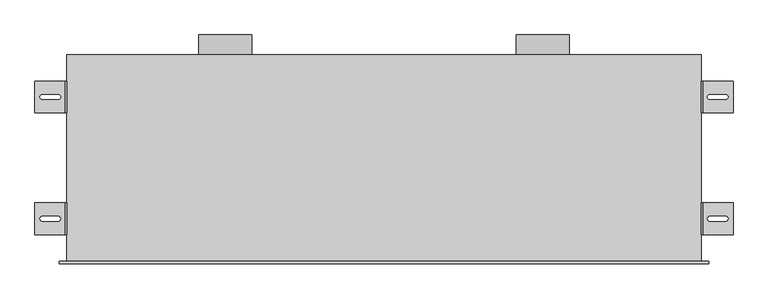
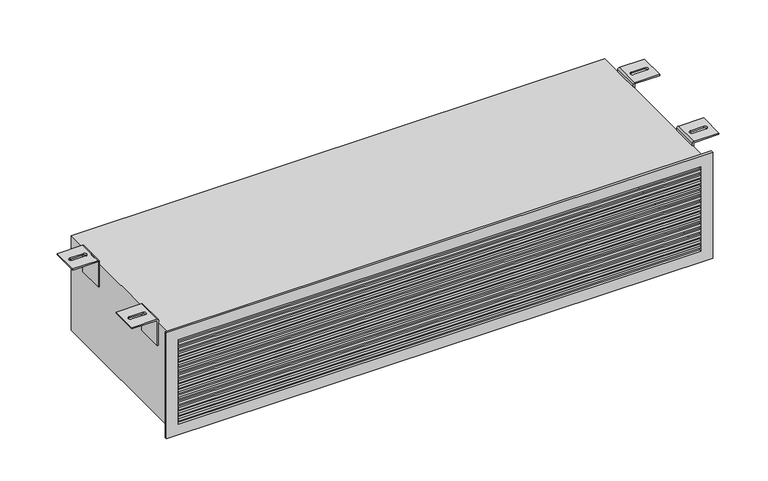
"""IFC4 building model written with IfcOpenShell, lengths in millimetres: air terminal geometry, EOL - Mural - 2 piquages : EOL-M2x100-1200x225-2."""

from ifc_helpers import new_model, si_unit, point, frame, frame_2d, origin, place, context, project, spatial, polyline, circle_curve, ellipse_curve, trimmed, segment, composite_curve, outline, extrude, source, transform, mapped, element, save
from ifc_brep_helpers import plane_surface, cylinder_surface, revolved_surface, extruded_surface, advanced_brep


def air_terminal_93b68f62(model_context):
    return source(origin(), model_context, "Body", "SolidModel", [
        advanced_brep(
        [(604.0013366, 110.0, 121.5), (660.0, 110.0, 121.5), (660.0, 110.0, 118.5), (604.0, 110.0, 118.5), (603.0, 110.0, 117.5), (603.0, 110.0, 58.5), (600.0, 110.0, 58.5), (600.0, 110.0, 117.4986634), (604.0013366, 50.0, 121.5), (600.0, 50.0, 117.4986634), (600.0, 50.0, 58.5), (603.0, 50.0, 58.5), (603.0, 50.0, 117.5), (604.0, 50.0, 118.5), (660.0, 50.0, 118.5), (660.0, 50.0, 121.5), (646.0287952, 75.4804328, 121.5), (616.0287952, 75.4804328, 121.5), (616.0287952, 84.4804328, 121.5), (646.0287952, 84.4804328, 121.5), (616.0287952, 75.4804328, 118.5), (646.0287952, 75.4804328, 118.5), (646.0287952, 84.4804328, 118.5), (616.0287952, 84.4804328, 118.5)],
        [
            (0, 1),
            (1, 2),
            (2, 3),
            (3, 4, circle_curve(frame((604.0, 110.0, 117.5), z_axis=(0.0, -1.0, 0.0), x_axis=(-1.0000000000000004, 0.0, 0.0)), 1.0)),
            (4, 5),
            (5, 6),
            (6, 7),
            (7, 0, circle_curve(frame((604.0013366, 110.0, 117.4986634), z_axis=(0.0, 1.0, 0.0), x_axis=(-1.0000000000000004, 0.0, 0.0)), 4.0013366)),
            (8, 9, circle_curve(frame((604.0013366, 50.0, 117.4986634), z_axis=(0.0, -1.0, 0.0), x_axis=(-1.0000000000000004, 0.0, 0.0)), 4.0013366)),
            (9, 10),
            (10, 11),
            (11, 12),
            (12, 13, circle_curve(frame((604.0, 50.0, 117.5), z_axis=(0.0, 1.0, 0.0), x_axis=(-1.0000000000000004, 0.0, 0.0)), 1.0)),
            (13, 14),
            (14, 15),
            (15, 8),
            (0, 8),
            (15, 1),
            (16, 17),
            (17, 18, circle_curve(frame((616.0287952, 79.9804328, 121.5), z_axis=(0.0, 0.0, -1.0), x_axis=(0.0, -1.0, 0.0)), 4.5)),
            (18, 19),
            (19, 16, circle_curve(frame((646.0287952, 79.9804328, 121.5), z_axis=(0.0, 0.0, -1.0), x_axis=(0.0, -1.0, 0.0)), 4.5)),
            (14, 2),
            (13, 3),
            (20, 21),
            (21, 22, ellipse_curve(frame((646.0287952, 79.9804328, 118.5), z_axis=(0.0, 0.0, 1.0), x_axis=(0.0, -1.0, 0.0)), 4.5, 4.5)),
            (22, 23),
            (23, 20, ellipse_curve(frame((616.0287952, 79.9804328, 118.5), z_axis=(0.0, 0.0, 1.0), x_axis=(0.0, -1.0, 0.0)), 4.5, 4.5)),
            (12, 4),
            (11, 5),
            (10, 6),
            (9, 7),
            (16, 21),
            (20, 17),
            (19, 22),
            (18, 23),
        ],
        [
            plane_surface(frame((660.0, 110.0, 121.5), z_axis=(0.0, 1.0, 0.0), x_axis=(1.0, 0.0, 0.0))),
            plane_surface(frame((660.0, 50.0, 121.5), z_axis=(0.0, -1.0, 0.0), x_axis=(-1.0, 0.0, 0.0))),
            plane_surface(frame((604.0013366, 110.0, 121.5), z_axis=(0.0, 0.0, 1.0), x_axis=(0.0, -1.0, 0.0))),
            plane_surface(frame((660.0, 110.0, 121.5), z_axis=(1.0, 0.0, 0.0), x_axis=(0.0, -1.0, 0.0))),
            plane_surface(frame((660.0, 110.0, 118.5), z_axis=(0.0, 0.0, -1.0), x_axis=(0.0, -1.0, 0.0))),
            revolved_surface(polyline([(603.0, 50.0, 117.5), (603.0, 110.00000000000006, 117.5)]), (604.0, 50.0, 117.5), (0.0, -1.0000000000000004, 0.0)),
            plane_surface(frame((603.0, 110.0, 117.5), z_axis=(1.0, 0.0, 0.0), x_axis=(0.0, -1.0, 0.0))),
            plane_surface(frame((603.0, 110.0, 58.5), z_axis=(0.0, 0.0, -1.0), x_axis=(0.0, -1.0, 0.0))),
            plane_surface(frame((600.0, 110.0, 58.5), z_axis=(-1.0, 0.0, 0.0), x_axis=(0.0, -1.0, 0.0))),
            cylinder_surface(frame((604.0013366, 50.0, 117.4986634), z_axis=(0.0, 1.0000000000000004, 0.0), x_axis=(-1.0000000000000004, 0.0, 0.0)), 4.0013366),
            plane_surface(frame((616.0287952, 75.4804328, 121.5), z_axis=(0.0, 1.0, 0.0), x_axis=(0.0, 0.0, -1.0))),
            extruded_surface(trimmed(ellipse_curve(frame((646.0287952, 79.9804328, 118.5), z_axis=(0.0, 0.0, 1.0), x_axis=(0.0, -1.0, 0.0)), 4.5, 4.5), [point((646.0287952, 75.4804328, 118.5))], [point((646.0287952, 84.4804328, 118.5))], True, "CARTESIAN"), (0.0, 0.0, -3.0), 3.0),
            plane_surface(frame((646.0287952, 84.4804328, 121.5), z_axis=(0.0, -1.0, 0.0), x_axis=(0.0, 0.0, -1.0))),
            extruded_surface(trimmed(ellipse_curve(frame((616.0287952, 79.9804328, 118.5), z_axis=(0.0, 0.0, 1.0), x_axis=(0.0, -1.0, 0.0)), 4.5, 4.5), [point((616.0287952, 84.4804328, 118.5))], [point((616.0287952, 75.4804328, 118.5))], True, "CARTESIAN"), (0.0, 0.0, -3.0), 3.0),
        ],
        [
            (0, [[1, 2, 3, 4, 5, 6, 7, 8]]),
            (1, [[9, 10, 11, 12, 13, 14, 15, 16]]),
            (2, [[-1, 17, -16, 18], [19, 20, 21, 22]]),
            (3, [[-2, -18, -15, 23]]),
            (4, [[-3, -23, -14, 24], [25, 26, 27, 28]]),
            (5, [[-4, -24, -13, 29]]),
            (6, [[-5, -29, -12, 30]]),
            (7, [[-6, -30, -11, 31]]),
            (8, [[-7, -31, -10, 32]]),
            (9, [[-8, -32, -9, -17]]),
            (10, [[33, -25, 34, -19]]),
            (11, [[-33, -22, 35, -26]]),
            (12, [[-35, -21, 36, -27]]),
            (13, [[-34, -28, -36, -20]]),
        ],
    ),
        advanced_brep(
        [(604.0013366, 340.0, 121.5), (660.0, 340.0, 121.5), (660.0, 340.0, 118.5), (604.0, 340.0, 118.5), (603.0, 340.0, 117.5), (603.0, 340.0, 58.5), (600.0, 340.0, 58.5), (600.0, 340.0, 117.4986634), (604.0013366, 280.0, 121.5), (600.0, 280.0, 117.4986634), (600.0, 280.0, 58.5), (603.0, 280.0, 58.5), (603.0, 280.0, 117.5), (604.0, 280.0, 118.5), (660.0, 280.0, 118.5), (660.0, 280.0, 121.5), (646.0287952, 305.4804328, 121.5), (616.0287952, 305.4804328, 121.5), (616.0287952, 314.4804328, 121.5), (646.0287952, 314.4804328, 121.5), (616.0287952, 305.4804328, 118.5), (646.0287952, 305.4804328, 118.5), (646.0287952, 314.4804328, 118.5), (616.0287952, 314.4804328, 118.5)],
        [
            (0, 1),
            (1, 2),
            (2, 3),
            (3, 4, circle_curve(frame((604.0, 340.0, 117.5), z_axis=(0.0, -1.0, 0.0), x_axis=(-1.0, 0.0, 0.0)), 1.0)),
            (4, 5),
            (5, 6),
            (6, 7),
            (7, 0, circle_curve(frame((604.0013366, 340.0, 117.4986634), z_axis=(0.0, 1.0, 0.0), x_axis=(-1.0, 0.0, 0.0)), 4.0013366)),
            (8, 9, circle_curve(frame((604.0013366, 280.0, 117.4986634), z_axis=(0.0, -1.0, 0.0), x_axis=(-1.0, 0.0, 0.0)), 4.0013366)),
            (9, 10),
            (10, 11),
            (11, 12),
            (12, 13, circle_curve(frame((604.0, 280.0, 117.5), z_axis=(0.0, 1.0, 0.0), x_axis=(-1.0, 0.0, 0.0)), 1.0)),
            (13, 14),
            (14, 15),
            (15, 8),
            (0, 8),
            (15, 1),
            (16, 17),
            (17, 18, circle_curve(frame((616.0287952, 309.9804328, 121.5), z_axis=(0.0, 0.0, -1.0), x_axis=(0.0, -1.0, 0.0)), 4.5)),
            (18, 19),
            (19, 16, circle_curve(frame((646.0287952, 309.9804328, 121.5), z_axis=(0.0, 0.0, -1.0), x_axis=(0.0, -1.0, 0.0)), 4.5)),
            (14, 2),
            (13, 3),
            (20, 21),
            (21, 22, ellipse_curve(frame((646.0287952, 309.9804328, 118.5), z_axis=(0.0, 0.0, 1.0), x_axis=(0.0, -1.0, 0.0)), 4.5, 4.5)),
            (22, 23),
            (23, 20, ellipse_curve(frame((616.0287952, 309.9804328, 118.5), z_axis=(0.0, 0.0, 1.0), x_axis=(0.0, -1.0, 0.0)), 4.5, 4.5)),
            (12, 4),
            (11, 5),
            (10, 6),
            (9, 7),
            (16, 21),
            (20, 17),
            (19, 22),
            (18, 23),
        ],
        [
            plane_surface(frame((660.0, 340.0, 121.5), z_axis=(0.0, 1.0, 0.0), x_axis=(1.0, 0.0, 0.0))),
            plane_surface(frame((660.0, 280.0, 121.5), z_axis=(0.0, -1.0, 0.0), x_axis=(-1.0, 0.0, 0.0))),
            plane_surface(frame((604.0013366, 340.0, 121.5), z_axis=(0.0, 0.0, 1.0), x_axis=(0.0, -1.0, 0.0))),
            plane_surface(frame((660.0, 340.0, 121.5), z_axis=(1.0, 0.0, 0.0), x_axis=(0.0, -1.0, 0.0))),
            plane_surface(frame((660.0, 340.0, 118.5), z_axis=(0.0, 0.0, -1.0), x_axis=(0.0, -1.0, 0.0))),
            revolved_surface(polyline([(603.0, 280.0, 117.5), (603.0, 340.0, 117.5)]), (604.0, 280.0, 117.5), (0.0, -1.0, 0.0)),
            plane_surface(frame((603.0, 340.0, 117.5), z_axis=(1.0, 0.0, 0.0), x_axis=(0.0, -1.0, 0.0))),
            plane_surface(frame((603.0, 340.0, 58.5), z_axis=(0.0, 0.0, -1.0), x_axis=(0.0, -1.0, 0.0))),
            plane_surface(frame((600.0, 340.0, 58.5), z_axis=(-1.0, 0.0, 0.0), x_axis=(0.0, -1.0, 0.0))),
            cylinder_surface(frame((604.0013366, 280.0, 117.4986634), z_axis=(0.0, 1.0, 0.0), x_axis=(-1.0, 0.0, 0.0)), 4.0013366),
            plane_surface(frame((616.0287952, 305.4804328, 121.5), z_axis=(0.0, 1.0, 0.0), x_axis=(0.0, 0.0, -1.0))),
            extruded_surface(trimmed(ellipse_curve(frame((646.0287952, 309.9804328, 118.5), z_axis=(0.0, 0.0, 1.0), x_axis=(0.0, -1.0, 0.0)), 4.5, 4.5), [point((646.0287952, 305.4804328, 118.5))], [point((646.0287952, 314.4804328, 118.5))], True, "CARTESIAN"), (0.0, 0.0, -3.0), 3.0),
            plane_surface(frame((646.0287952, 314.4804328, 121.5), z_axis=(0.0, -1.0, 0.0), x_axis=(0.0, 0.0, -1.0))),
            extruded_surface(trimmed(ellipse_curve(frame((616.0287952, 309.9804328, 118.5), z_axis=(0.0, 0.0, 1.0), x_axis=(0.0, -1.0, 0.0)), 4.5, 4.5), [point((616.0287952, 314.4804328, 118.5))], [point((616.0287952, 305.4804328, 118.5))], True, "CARTESIAN"), (0.0, 0.0, -3.0), 3.0),
        ],
        [
            (0, [[1, 2, 3, 4, 5, 6, 7, 8]]),
            (1, [[9, 10, 11, 12, 13, 14, 15, 16]]),
            (2, [[-1, 17, -16, 18], [19, 20, 21, 22]]),
            (3, [[-2, -18, -15, 23]]),
            (4, [[-3, -23, -14, 24], [25, 26, 27, 28]]),
            (5, [[-4, -24, -13, 29]]),
            (6, [[-5, -29, -12, 30]]),
            (7, [[-6, -30, -11, 31]]),
            (8, [[-7, -31, -10, 32]]),
            (9, [[-8, -32, -9, -17]]),
            (10, [[33, -25, 34, -19]]),
            (11, [[-33, -22, 35, -26]]),
            (12, [[-35, -21, 36, -27]]),
            (13, [[-34, -28, -36, -20]]),
        ],
    ),
        advanced_brep(
        [(-604.0013366, 50.0, 121.5), (-660.0, 50.0, 121.5), (-660.0, 50.0, 118.5), (-604.0, 50.0, 118.5), (-603.0, 50.0, 117.5), (-603.0, 50.0, 58.5), (-600.0, 50.0, 58.5), (-600.0, 50.0, 117.4986634), (-604.0013366, 110.0, 121.5), (-600.0, 110.0, 117.4986634), (-600.0, 110.0, 58.5), (-603.0, 110.0, 58.5), (-603.0, 110.0, 117.5), (-604.0, 110.0, 118.5), (-660.0, 110.0, 118.5), (-660.0, 110.0, 121.5), (-646.0287952, 84.5195672, 121.5), (-616.0287952, 84.5195672, 121.5), (-616.0287952, 75.5195672, 121.5), (-646.0287952, 75.5195672, 121.5), (-616.0287952, 84.5195672, 118.5), (-646.0287952, 84.5195672, 118.5), (-646.0287952, 75.5195672, 118.5), (-616.0287952, 75.5195672, 118.5)],
        [
            (0, 1),
            (1, 2),
            (2, 3),
            (3, 4, circle_curve(frame((-604.0, 50.0, 117.5), z_axis=(0.0, 1.0, 0.0), x_axis=(1.0, 0.0, 0.0)), 1.0)),
            (4, 5),
            (5, 6),
            (6, 7),
            (7, 0, circle_curve(frame((-604.0013366, 50.0, 117.4986634), z_axis=(0.0, -1.0, 0.0), x_axis=(1.0, 0.0, 0.0)), 4.0013366)),
            (8, 9, circle_curve(frame((-604.0013366, 110.0, 117.4986634), z_axis=(0.0, 1.0, 0.0), x_axis=(1.0, 0.0, 0.0)), 4.0013366)),
            (9, 10),
            (10, 11),
            (11, 12),
            (12, 13, circle_curve(frame((-604.0, 110.0, 117.5), z_axis=(0.0, -1.0, 0.0), x_axis=(1.0, 0.0, 0.0)), 1.0)),
            (13, 14),
            (14, 15),
            (15, 8),
            (0, 8),
            (15, 1),
            (16, 17),
            (17, 18, circle_curve(frame((-616.0287952, 80.0195672, 121.5), z_axis=(0.0, 0.0, -1.0), x_axis=(0.0, 1.0, 0.0)), 4.5)),
            (18, 19),
            (19, 16, circle_curve(frame((-646.0287952, 80.0195672, 121.5), z_axis=(0.0, 0.0, -1.0), x_axis=(0.0, 1.0, 0.0)), 4.5)),
            (14, 2),
            (13, 3),
            (20, 21),
            (21, 22, ellipse_curve(frame((-646.0287952, 80.0195672, 118.5), z_axis=(0.0, 0.0, 1.0), x_axis=(0.0, 1.0, 0.0)), 4.5, 4.5)),
            (22, 23),
            (23, 20, ellipse_curve(frame((-616.0287952, 80.0195672, 118.5), z_axis=(0.0, 0.0, 1.0), x_axis=(0.0, 1.0, 0.0)), 4.5, 4.5)),
            (12, 4),
            (11, 5),
            (10, 6),
            (9, 7),
            (16, 21),
            (20, 17),
            (19, 22),
            (18, 23),
        ],
        [
            plane_surface(frame((-660.0, 50.0, 121.5), z_axis=(0.0, -1.0, 0.0), x_axis=(-1.0, 0.0, 0.0))),
            plane_surface(frame((-660.0, 110.0, 121.5), z_axis=(0.0, 1.0, 0.0), x_axis=(1.0, 0.0, 0.0))),
            plane_surface(frame((-604.0013366, 50.0, 121.5), z_axis=(0.0, 0.0, 1.0), x_axis=(0.0, 1.0, 0.0))),
            plane_surface(frame((-660.0, 50.0, 121.5), z_axis=(-1.0, 0.0, 0.0), x_axis=(0.0, 1.0, 0.0))),
            plane_surface(frame((-660.0, 50.0, 118.5), z_axis=(0.0, 0.0, -1.0), x_axis=(0.0, 1.0, 0.0))),
            revolved_surface(polyline([(-603.0, 110.0, 117.5), (-603.0, 50.0, 117.5)]), (-604.0, 110.0, 117.5), (0.0, 1.0, 0.0)),
            plane_surface(frame((-603.0, 50.0, 117.5), z_axis=(-1.0, 0.0, 0.0), x_axis=(0.0, 1.0, 0.0))),
            plane_surface(frame((-603.0, 50.0, 58.5), z_axis=(0.0, 0.0, -1.0), x_axis=(0.0, 1.0, 0.0))),
            plane_surface(frame((-600.0, 50.0, 58.5), z_axis=(1.0, 0.0, 0.0), x_axis=(0.0, 1.0, 0.0))),
            cylinder_surface(frame((-604.0013366, 110.0, 117.4986634), z_axis=(0.0, -1.0, 0.0), x_axis=(1.0, 0.0, 0.0)), 4.0013366),
            plane_surface(frame((-616.0287952, 84.5195672, 121.5), z_axis=(0.0, -1.0, 0.0), x_axis=(0.0, 0.0, -1.0))),
            extruded_surface(trimmed(ellipse_curve(frame((-646.0287952, 80.0195672, 118.5), z_axis=(0.0, 0.0, 1.0), x_axis=(0.0, 1.0, 0.0)), 4.5, 4.5), [point((-646.0287952, 84.5195672, 118.5))], [point((-646.0287952, 75.5195672, 118.5))], True, "CARTESIAN"), (0.0, 0.0, -3.0), 3.0),
            plane_surface(frame((-646.0287952, 75.5195672, 121.5), z_axis=(0.0, 1.0, 0.0), x_axis=(0.0, 0.0, -1.0))),
            extruded_surface(trimmed(ellipse_curve(frame((-616.0287952, 80.0195672, 118.5), z_axis=(0.0, 0.0, 1.0), x_axis=(0.0, 1.0, 0.0)), 4.5, 4.5), [point((-616.0287952, 75.5195672, 118.5))], [point((-616.0287952, 84.5195672, 118.5))], True, "CARTESIAN"), (0.0, 0.0, -3.0), 3.0),
        ],
        [
            (0, [[1, 2, 3, 4, 5, 6, 7, 8]]),
            (1, [[9, 10, 11, 12, 13, 14, 15, 16]]),
            (2, [[-1, 17, -16, 18], [19, 20, 21, 22]]),
            (3, [[-2, -18, -15, 23]]),
            (4, [[-3, -23, -14, 24], [25, 26, 27, 28]]),
            (5, [[-4, -24, -13, 29]]),
            (6, [[-5, -29, -12, 30]]),
            (7, [[-6, -30, -11, 31]]),
            (8, [[-7, -31, -10, 32]]),
            (9, [[-8, -32, -9, -17]]),
            (10, [[33, -25, 34, -19]]),
            (11, [[-33, -22, 35, -26]]),
            (12, [[-35, -21, 36, -27]]),
            (13, [[-34, -28, -36, -20]]),
        ],
    ),
        advanced_brep(
        [(-604.0013366, 280.0, 121.5), (-660.0, 280.0, 121.5), (-660.0, 280.0, 118.5), (-604.0, 280.0, 118.5), (-603.0, 280.0, 117.5), (-603.0, 280.0, 58.5), (-600.0, 280.0, 58.5), (-600.0, 280.0, 117.4986634), (-604.0013366, 340.0, 121.5), (-600.0, 340.0, 117.4986634), (-600.0, 340.0, 58.5), (-603.0, 340.0, 58.5), (-603.0, 340.0, 117.5), (-604.0, 340.0, 118.5), (-660.0, 340.0, 118.5), (-660.0, 340.0, 121.5), (-646.0287952, 314.5195672, 121.5), (-616.0287952, 314.5195672, 121.5), (-616.0287952, 305.5195672, 121.5), (-646.0287952, 305.5195672, 121.5), (-616.0287952, 314.5195672, 118.5), (-646.0287952, 314.5195672, 118.5), (-646.0287952, 305.5195672, 118.5), (-616.0287952, 305.5195672, 118.5)],
        [
            (0, 1),
            (1, 2),
            (2, 3),
            (3, 4, circle_curve(frame((-604.0, 280.0, 117.5), z_axis=(0.0, 1.0, 0.0), x_axis=(1.0, 0.0, 0.0)), 1.0)),
            (4, 5),
            (5, 6),
            (6, 7),
            (7, 0, circle_curve(frame((-604.0013366, 280.0, 117.4986634), z_axis=(0.0, -1.0, 0.0), x_axis=(1.0, 0.0, 0.0)), 4.0013366)),
            (8, 9, circle_curve(frame((-604.0013366, 340.0, 117.4986634), z_axis=(0.0, 1.0, 0.0), x_axis=(1.0, 0.0, 0.0)), 4.0013366)),
            (9, 10),
            (10, 11),
            (11, 12),
            (12, 13, circle_curve(frame((-604.0, 340.0, 117.5), z_axis=(0.0, -1.0, 0.0), x_axis=(1.0, 0.0, 0.0)), 1.0)),
            (13, 14),
            (14, 15),
            (15, 8),
            (0, 8),
            (15, 1),
            (16, 17),
            (17, 18, circle_curve(frame((-616.0287952, 310.0195672, 121.5), z_axis=(0.0, 0.0, -1.0), x_axis=(0.0, 1.0, 0.0)), 4.5)),
            (18, 19),
            (19, 16, circle_curve(frame((-646.0287952, 310.0195672, 121.5), z_axis=(0.0, 0.0, -1.0), x_axis=(0.0, 1.0, 0.0)), 4.5)),
            (14, 2),
            (13, 3),
            (20, 21),
            (21, 22, ellipse_curve(frame((-646.0287952, 310.0195672, 118.5), z_axis=(0.0, 0.0, 1.0), x_axis=(0.0, 1.0, 0.0)), 4.5, 4.5)),
            (22, 23),
            (23, 20, ellipse_curve(frame((-616.0287952, 310.0195672, 118.5), z_axis=(0.0, 0.0, 1.0), x_axis=(0.0, 1.0, 0.0)), 4.5, 4.5)),
            (12, 4),
            (11, 5),
            (10, 6),
            (9, 7),
            (16, 21),
            (20, 17),
            (19, 22),
            (18, 23),
        ],
        [
            plane_surface(frame((-660.0, 280.0, 121.5), z_axis=(0.0, -1.0, 0.0), x_axis=(-1.0, 0.0, 0.0))),
            plane_surface(frame((-660.0, 340.0, 121.5), z_axis=(0.0, 1.0, 0.0), x_axis=(1.0, 0.0, 0.0))),
            plane_surface(frame((-604.0013366, 280.0, 121.5), z_axis=(0.0, 0.0, 1.0), x_axis=(0.0, 1.0, 0.0))),
            plane_surface(frame((-660.0, 280.0, 121.5), z_axis=(-1.0, 0.0, 0.0), x_axis=(0.0, 1.0, 0.0))),
            plane_surface(frame((-660.0, 280.0, 118.5), z_axis=(0.0, 0.0, -1.0), x_axis=(0.0, 1.0, 0.0))),
            revolved_surface(polyline([(-603.0, 340.0, 117.5), (-603.0, 280.0, 117.5)]), (-604.0, 340.0, 117.5), (0.0, 1.0, 0.0)),
            plane_surface(frame((-603.0, 280.0, 117.5), z_axis=(-1.0, 0.0, 0.0), x_axis=(0.0, 1.0, 0.0))),
            plane_surface(frame((-603.0, 280.0, 58.5), z_axis=(0.0, 0.0, -1.0), x_axis=(0.0, 1.0, 0.0))),
            plane_surface(frame((-600.0, 280.0, 58.5), z_axis=(1.0, 0.0, 0.0), x_axis=(0.0, 1.0, 0.0))),
            cylinder_surface(frame((-604.0013366, 340.0, 117.4986634), z_axis=(0.0, -1.0, 0.0), x_axis=(1.0, 0.0, 0.0)), 4.0013366),
            plane_surface(frame((-616.0287952, 314.5195672, 121.5), z_axis=(0.0, -1.0, 0.0), x_axis=(0.0, 0.0, -1.0))),
            extruded_surface(trimmed(ellipse_curve(frame((-646.0287952, 310.0195672, 118.5), z_axis=(0.0, 0.0, 1.0), x_axis=(0.0, 1.0, 0.0)), 4.5, 4.5), [point((-646.0287952, 314.5195672, 118.5))], [point((-646.0287952, 305.5195672, 118.5))], True, "CARTESIAN"), (0.0, 0.0, -3.0), 3.0),
            plane_surface(frame((-646.0287952, 305.5195672, 121.5), z_axis=(0.0, 1.0, 0.0), x_axis=(0.0, 0.0, -1.0))),
            extruded_surface(trimmed(ellipse_curve(frame((-616.0287952, 310.0195672, 118.5), z_axis=(0.0, 0.0, 1.0), x_axis=(0.0, 1.0, 0.0)), 4.5, 4.5), [point((-616.0287952, 305.5195672, 118.5))], [point((-616.0287952, 314.5195672, 118.5))], True, "CARTESIAN"), (0.0, 0.0, -3.0), 3.0),
        ],
        [
            (0, [[1, 2, 3, 4, 5, 6, 7, 8]]),
            (1, [[9, 10, 11, 12, 13, 14, 15, 16]]),
            (2, [[-1, 17, -16, 18], [19, 20, 21, 22]]),
            (3, [[-2, -18, -15, 23]]),
            (4, [[-3, -23, -14, 24], [25, 26, 27, 28]]),
            (5, [[-4, -24, -13, 29]]),
            (6, [[-5, -29, -12, 30]]),
            (7, [[-6, -30, -11, 31]]),
            (8, [[-7, -31, -10, 32]]),
            (9, [[-8, -32, -9, -17]]),
            (10, [[33, -25, 34, -19]]),
            (11, [[-33, -22, 35, -26]]),
            (12, [[-35, -21, 36, -27]]),
            (13, [[-34, -28, -36, -20]]),
        ],
    ),
        extrude(outline(composite_curve([segment(trimmed(circle_curve(frame_2d((0.0, 300.0)), 50.0), [point((0.0, 250.0))], [point((0.0, 350.0))], False, "CARTESIAN"), True, "CONTINUOUS"), segment(trimmed(circle_curve(frame_2d((0.0, 300.0)), 50.0), [point((0.0, 350.0))], [point((0.0, 250.0))], False, "CARTESIAN"), True, "CONTINUOUS")], self_intersect=False), holes=[composite_curve([segment(trimmed(circle_curve(frame_2d((0.0, 300.0)), 49.0), [point((0.0, 349.0))], [point((0.0, 251.0))], True, "CARTESIAN"), True, "CONTINUOUS"), segment(trimmed(circle_curve(frame_2d((0.0, 300.0)), 49.0), [point((0.0, 251.0))], [point((0.0, 349.0))], True, "CARTESIAN"), True, "CONTINUOUS")], self_intersect=False)]), frame((0.0, 390.0, 0.0), z_axis=(0.0, 1.0, 0.0), x_axis=(0.0, 0.0, 1.0)), (0.0, 0.0, 1.0), 37.5),
        extrude(outline(composite_curve([segment(trimmed(circle_curve(frame_2d((0.0, -300.0)), 50.0), [point((0.0, -350.0))], [point((0.0, -250.0))], False, "CARTESIAN"), True, "CONTINUOUS"), segment(trimmed(circle_curve(frame_2d((0.0, -300.0)), 50.0), [point((0.0, -250.0))], [point((0.0, -350.0))], False, "CARTESIAN"), True, "CONTINUOUS")], self_intersect=False), holes=[composite_curve([segment(trimmed(circle_curve(frame_2d((0.0, -300.0)), 49.0), [point((0.0, -251.0))], [point((0.0, -349.0))], True, "CARTESIAN"), True, "CONTINUOUS"), segment(trimmed(circle_curve(frame_2d((0.0, -300.0)), 49.0), [point((0.0, -349.0))], [point((0.0, -251.0))], True, "CARTESIAN"), True, "CONTINUOUS")], self_intersect=False)]), frame((0.0, 390.0, 0.0), z_axis=(0.0, 1.0, 0.0), x_axis=(0.0, 0.0, 1.0)), (0.0, 0.0, 1.0), 37.5),
        extrude(outline(polyline([(587.5, 0.0), (587.5, -5.0), (-587.5, -5.0), (-587.5, 0.0), (587.5, 0.0)])), frame((0.0, 0.0, 87.15), z_axis=(0.0, 0.0, 1.0), x_axis=(1.0, 0.0, 0.0)), (0.0, 0.0, 1.0), 5.6),
        extrude(outline(polyline([(587.5, 0.0), (587.5, -5.0), (-587.5, -5.0), (-587.5, 0.0), (587.5, 0.0)])), frame((0.0, 0.0, 74.3), z_axis=(0.0, 0.0, 1.0), x_axis=(1.0, 0.0, 0.0)), (0.0, 0.0, 1.0), 5.6),
        extrude(outline(polyline([(587.5, 0.0), (587.5, -5.0), (-587.5, -5.0), (-587.5, 0.0), (587.5, 0.0)])), frame((0.0, 0.0, 61.45), z_axis=(0.0, 0.0, 1.0), x_axis=(1.0, 0.0, 0.0)), (0.0, 0.0, 1.0), 5.6),
        extrude(outline(polyline([(587.5, 0.0), (587.5, -5.0), (-587.5, -5.0), (-587.5, 0.0), (587.5, 0.0)])), frame((0.0, 0.0, 48.6), z_axis=(0.0, 0.0, 1.0), x_axis=(1.0, 0.0, 0.0)), (0.0, 0.0, 1.0), 5.6),
        extrude(outline(polyline([(587.5, 0.0), (587.5, -5.0), (-587.5, -5.0), (-587.5, 0.0), (587.5, 0.0)])), frame((0.0, 0.0, 35.75), z_axis=(0.0, 0.0, 1.0), x_axis=(1.0, 0.0, 0.0)), (0.0, 0.0, 1.0), 5.6),
        extrude(outline(polyline([(587.5, 0.0), (587.5, -5.0), (-587.5, -5.0), (-587.5, 0.0), (587.5, 0.0)])), frame((0.0, 0.0, 22.9), z_axis=(0.0, 0.0, 1.0), x_axis=(1.0, 0.0, 0.0)), (0.0, 0.0, 1.0), 5.6),
        extrude(outline(polyline([(587.5, 0.0), (587.5, -5.0), (-587.5, -5.0), (-587.5, 0.0), (587.5, 0.0)])), frame((0.0, 0.0, 10.05), z_axis=(0.0, 0.0, 1.0), x_axis=(1.0, 0.0, 0.0)), (0.0, 0.0, 1.0), 5.6),
        extrude(outline(polyline([(587.5, 0.0), (587.5, -5.0), (-587.5, -5.0), (-587.5, 0.0), (587.5, 0.0)])), frame((0.0, 0.0, -2.8), z_axis=(0.0, 0.0, 1.0), x_axis=(1.0, 0.0, 0.0)), (0.0, 0.0, 1.0), 5.6),
        extrude(outline(polyline([(587.5, 0.0), (587.5, -5.0), (-587.5, -5.0), (-587.5, 0.0), (587.5, 0.0)])), frame((0.0, 0.0, -15.65), z_axis=(0.0, 0.0, 1.0), x_axis=(1.0, 0.0, 0.0)), (0.0, 0.0, 1.0), 5.6),
        extrude(outline(polyline([(587.5, 0.0), (587.5, -5.0), (-587.5, -5.0), (-587.5, 0.0), (587.5, 0.0)])), frame((0.0, 0.0, -28.5), z_axis=(0.0, 0.0, 1.0), x_axis=(1.0, 0.0, 0.0)), (0.0, 0.0, 1.0), 5.6),
        extrude(outline(polyline([(587.5, 0.0), (587.5, -5.0), (-587.5, -5.0), (-587.5, 0.0), (587.5, 0.0)])), frame((0.0, 0.0, -41.35), z_axis=(0.0, 0.0, 1.0), x_axis=(1.0, 0.0, 0.0)), (0.0, 0.0, 1.0), 5.6),
        extrude(outline(polyline([(587.5, 0.0), (587.5, -5.0), (-587.5, -5.0), (-587.5, 0.0), (587.5, 0.0)])), frame((0.0, 0.0, -54.2), z_axis=(0.0, 0.0, 1.0), x_axis=(1.0, 0.0, 0.0)), (0.0, 0.0, 1.0), 5.6),
        extrude(outline(polyline([(587.5, 0.0), (587.5, -5.0), (-587.5, -5.0), (-587.5, 0.0), (587.5, 0.0)])), frame((0.0, 0.0, -67.05), z_axis=(0.0, 0.0, 1.0), x_axis=(1.0, 0.0, 0.0)), (0.0, 0.0, 1.0), 5.6),
        extrude(outline(polyline([(587.5, 0.0), (587.5, -5.0), (-587.5, -5.0), (-587.5, 0.0), (587.5, 0.0)])), frame((0.0, 0.0, -79.9), z_axis=(0.0, 0.0, 1.0), x_axis=(1.0, 0.0, 0.0)), (0.0, 0.0, 1.0), 5.6),
        extrude(outline(polyline([(587.5, 0.0), (587.5, -5.0), (-587.5, -5.0), (-587.5, 0.0), (587.5, 0.0)])), frame((0.0, 0.0, -92.75), z_axis=(0.0, 0.0, 1.0), x_axis=(1.0, 0.0, 0.0)), (0.0, 0.0, 1.0), 5.6),
        extrude(outline(polyline([(126.0, 614.0), (126.0, -614.0), (-126.0, -614.0), (-126.0, 614.0), (126.0, 614.0)]), holes=[polyline([(100.0, 587.5), (-100.0, 587.5), (-100.0, -587.5), (100.0, -587.5), (100.0, 587.5)])]), frame((0.0, -5.0, 0.0), z_axis=(0.0, 1.0, 0.0), x_axis=(0.0, 0.0, 1.0)), (0.0, 0.0, 1.0), 5.0),
        advanced_brep(
        [(600.0, 390.0, 112.5), (-600.0, 390.0, 112.5), (-600.0, 0.0, 112.5), (600.0, 0.0, 112.5), (600.0, 390.0, -112.5), (600.0, 0.0, -112.5), (-600.0, 0.0, -112.5), (-600.0, 390.0, -112.5), (251.0, 390.0, 0.0), (349.0, 390.0, 0.0), (-349.0, 390.0, 0.0), (-251.0, 390.0, 0.0), (-595.0, 0.0, 107.5), (595.0, 0.0, 107.5), (595.0, 0.0, -107.5), (-595.0, 0.0, -107.5), (595.0, 385.0, 107.5), (-595.0, 385.0, 107.5), (595.0, 385.0, -107.5), (-595.0, 385.0, -107.5), (349.0, 385.0, 0.0), (251.0, 385.0, 0.0), (-251.0, 385.0, 0.0), (-349.0, 385.0, 0.0)],
        [
            (0, 1),
            (1, 2),
            (2, 3),
            (3, 0),
            (4, 5),
            (5, 6),
            (6, 7),
            (7, 4),
            (0, 4),
            (7, 1),
            (8, 9, circle_curve(frame((300.0, 390.0, 0.0), z_axis=(0.0, -1.0, 0.0), x_axis=(1.0, 0.0, 0.0)), 49.0)),
            (9, 8, circle_curve(frame((300.0, 390.0, 0.0), z_axis=(0.0, -1.0, 0.0), x_axis=(1.0, 0.0, 0.0)), 49.0)),
            (10, 11, circle_curve(frame((-300.0, 390.0, 0.0), z_axis=(0.0, -1.0, 0.0), x_axis=(1.0, 0.0, 0.0)), 49.0)),
            (11, 10, circle_curve(frame((-300.0, 390.0, 0.0), z_axis=(0.0, -1.0, 0.0), x_axis=(1.0, 0.0, 0.0)), 49.0)),
            (6, 2),
            (5, 3),
            (12, 13),
            (13, 14),
            (14, 15),
            (15, 12),
            (16, 13),
            (12, 17),
            (17, 16),
            (18, 19),
            (19, 15),
            (14, 18),
            (17, 19),
            (18, 16),
            (20, 21, circle_curve(frame((300.0, 385.0, 0.0), z_axis=(0.0, 1.0, 0.0), x_axis=(1.0, 0.0, 0.0)), 49.0)),
            (21, 20, circle_curve(frame((300.0, 385.0, 0.0), z_axis=(0.0, 1.0, 0.0), x_axis=(1.0, 0.0, 0.0)), 49.0)),
            (22, 23, circle_curve(frame((-300.0, 385.0, 0.0), z_axis=(0.0, 1.0, 0.0), x_axis=(1.0, 0.0, 0.0)), 49.0)),
            (23, 22, circle_curve(frame((-300.0, 385.0, 0.0), z_axis=(0.0, 1.0, 0.0), x_axis=(1.0, 0.0, 0.0)), 49.0)),
            (8, 21),
            (20, 9),
            (10, 23),
            (22, 11),
        ],
        [
            plane_surface(frame((-600.0, 390.0, 112.5), z_axis=(0.0, 0.0, 1.0), x_axis=(-1.0, 0.0, 0.0))),
            plane_surface(frame((-600.0, 390.0, -112.5), z_axis=(0.0, 0.0, -1.0), x_axis=(1.0, 0.0, 0.0))),
            plane_surface(frame((600.0, 390.0, 112.5), z_axis=(0.0, 1.0, 0.0), x_axis=(0.0, 0.0, -1.0))),
            plane_surface(frame((-600.0, 390.0, 112.5), z_axis=(-1.0, 0.0, 0.0), x_axis=(0.0, 0.0, -1.0))),
            plane_surface(frame((-600.0, 0.0, 112.5), z_axis=(0.0, -1.0, 0.0), x_axis=(0.0, 0.0, -1.0))),
            plane_surface(frame((600.0, 0.0, 112.5), z_axis=(1.0, 0.0, 0.0), x_axis=(0.0, 0.0, -1.0))),
            plane_surface(frame((-595.0, 385.0, 107.5), z_axis=(0.0, 0.0, -1.0), x_axis=(-1.0, 0.0, 0.0))),
            plane_surface(frame((-595.0, 385.0, -107.5), z_axis=(0.0, 0.0, 1.0), x_axis=(1.0, 0.0, 0.0))),
            plane_surface(frame((595.0, 385.0, 107.5), z_axis=(0.0, -1.0, 0.0), x_axis=(0.0, 0.0, -1.0))),
            plane_surface(frame((-595.0, 385.0, 107.5), z_axis=(1.0, 0.0, 0.0), x_axis=(0.0, 0.0, -1.0))),
            plane_surface(frame((595.0, 0.0, 107.5), z_axis=(-1.0, 0.0, 0.0), x_axis=(0.0, 0.0, -1.0))),
            revolved_surface(polyline([(349.0, 385.0, 0.0), (349.0, 390.0, 0.0)]), (300.0, 427.5, 0.0), (0.0, -1.0, 0.0)),
            revolved_surface(polyline([(-251.0, 385.0, 0.0), (-251.0, 390.0, 0.0)]), (-300.0, 0.0, 0.0), (0.0, -1.0, 0.0)),
        ],
        [
            (0, [[1, 2, 3, 4]]),
            (1, [[5, 6, 7, 8]]),
            (2, [[-1, 9, -8, 10], [11, 12], [13, 14]]),
            (3, [[-2, -10, -7, 15]]),
            (4, [[-3, -15, -6, 16], [17, 18, 19, 20]]),
            (5, [[-4, -16, -5, -9]]),
            (6, [[21, -17, 22, 23]]),
            (7, [[24, 25, -19, 26]]),
            (8, [[-23, 27, -24, 28], [29, 30], [31, 32]]),
            (9, [[-22, -20, -25, -27]]),
            (10, [[-21, -28, -26, -18]]),
            (11, [[33, -29, 34, -11]]),
            (11, [[-33, -12, -34, -30]]),
            (12, [[35, -31, 36, -13]]),
            (12, [[-35, -14, -36, -32]]),
        ],
    ),
    ])


if __name__ == "__main__":
    model = new_model("IFC4")
    model_context = context("Model", 3, world=origin())
    ifc_project = project(units=[si_unit("LENGTHUNIT", "METRE", prefix="MILLI")], contexts=[model_context])
    site = spatial("IfcSite", under=ifc_project)
    building = spatial("IfcBuilding", under=site)
    placement = place(None, origin())
    air_terminal_shape = air_terminal_93b68f62(model_context)
    element("IfcAirTerminal", 1, ObjectType="EOL - Mural - 2 piquages : EOL-M2x100-1200x225-2", at=placement, inside=building, context=model_context, shape_type="MappedRepresentation", body=[
        mapped(air_terminal_shape, transform((0.0, 0.0, 0.0), x_axis=(1.0, 0.0, 0.0), y_axis=(0.0, 1.0, 0.0), z_axis=(0.0, 0.0, 1.0))),
    ])
    save(model, "model.ifc")
